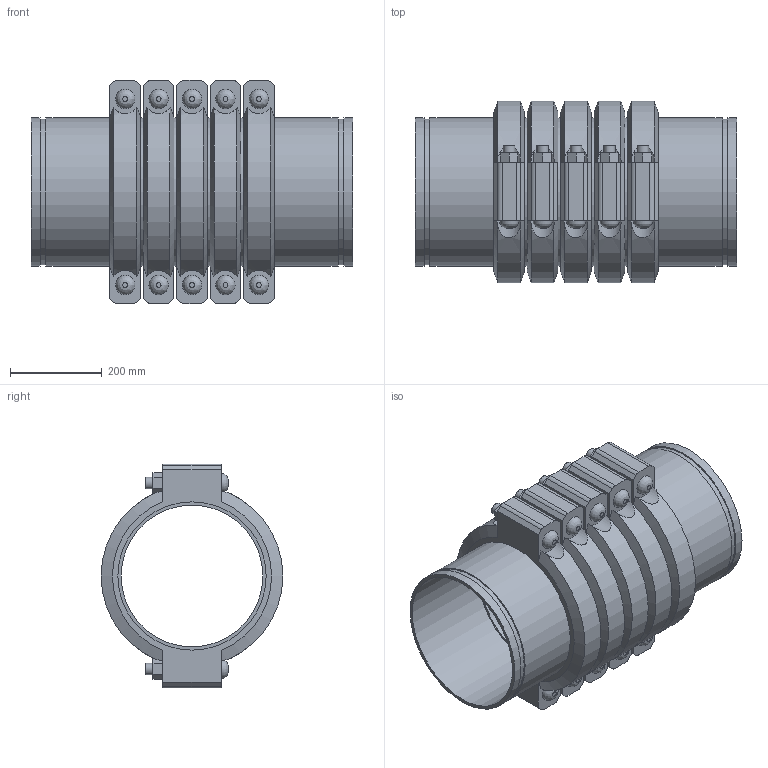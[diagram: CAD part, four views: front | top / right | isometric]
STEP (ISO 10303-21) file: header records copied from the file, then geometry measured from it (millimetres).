
FILE_DESCRIPTION(/* description */ ('VIC SS EXPANSION JOINT 5 COUPLINGS NEUTRAL STYLE 155P (OGS) (POTABLE WATER) ','CAx-IF Rec.Pracs.---Representation and Presentation of Product Manufacturing Information (PMI)---4.0---2014-10-13'),/* implementation_level */ '2;1');
FILE_NAME(/* name */ 'C:\Users\kkamble\AppData\Roaming\Autodesk\ApplicationPlugins\Victaulic.Temp\A327\Victaulic_SS_Expansion Joint_Neutral_5 Couplings_Style 155P (OGS)-Potable Water_5 Coup_Neut_12 (300).stp',/* time_stamp */ '2021-07-16T16:35:08+05:00',/* author */ ('kkamble'),/* organization */ ('Victaulic'),/* preprocessor_version */ 'ST-DEVELOPER v17.2',/* originating_system */ 'Autodesk Inventor 2019',/* authorisation */ '');
FILE_SCHEMA (('AP242_MANAGED_MODEL_BASED_3D_ENGINEERING_MIM_LF { 1 0 10303 442 1 1 4 }'));
Length unit declared in the file: inch
Products named in the file (4): 155P-12.0; Nipple-12.0; Nipple-12.0_1; 077-12.0
Assembly tree (11 placements, depth 2):
  155P-12.0
    Nipple-12.0  x2
    Nipple-12.0_1  x4
    077-12.0  x5
Bounding box: 701.8 x 397 x 488.95 mm (x, y, z)
Volume: 21472623.2 mm3; surface area: 3114397.2 mm2
Topology: 11 solids, 21 shells, 377 faces, 905 edges, 634 vertices
Faces by surface type: plane 216, cylinder 131, cone 20, bspline 10
Full cylindrical faces by diameter (mm): 25.4 x20, 27.432 x10, 309.677 x6, 314.96 x5, 318.287 x12, 323.85 x28
Entity records: 3057 total; most frequent: CARTESIAN_POINT 659, DIRECTION 477, ORIENTED_EDGE 410, EDGE_CURVE 205, AXIS2_PLACEMENT_3D 194, VERTEX_POINT 146, EDGE_LOOP 111, CIRCLE 96
